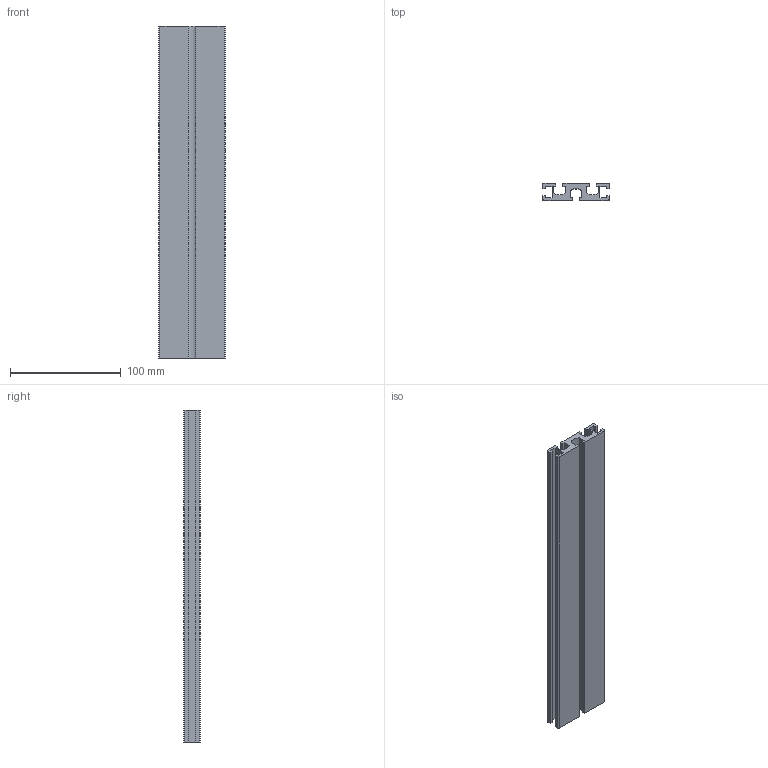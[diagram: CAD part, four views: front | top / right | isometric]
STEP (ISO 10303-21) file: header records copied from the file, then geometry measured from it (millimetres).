
FILE_DESCRIPTION (( 'STEP AP203' ), '1' );
FILE_NAME ('2-CG-1560-6.STEP', '2015-07-07T04:07:33', ( '' ), ( '' ), 'SwSTEP 2.0', 'SolidWorks 2013', '' );
FILE_SCHEMA (( 'CONFIG_CONTROL_DESIGN' ));
Length unit declared in the file: millimetre
Products named in the file (1): 2-CG-1560-6
Bounding box: 60 x 15.02 x 300 mm (x, y, z)
Volume: 140757.6 mm3; surface area: 83316.2 mm2
Topology: 1 solids, 1 shells, 51 faces, 147 edges, 98 vertices
Faces by surface type: plane 43, cylinder 8
Entity records: 1734 total; most frequent: CARTESIAN_POINT 297, ORIENTED_EDGE 294, DIRECTION 267, EDGE_CURVE 147, VECTOR 131, LINE 131, VERTEX_POINT 98, AXIS2_PLACEMENT_3D 68
